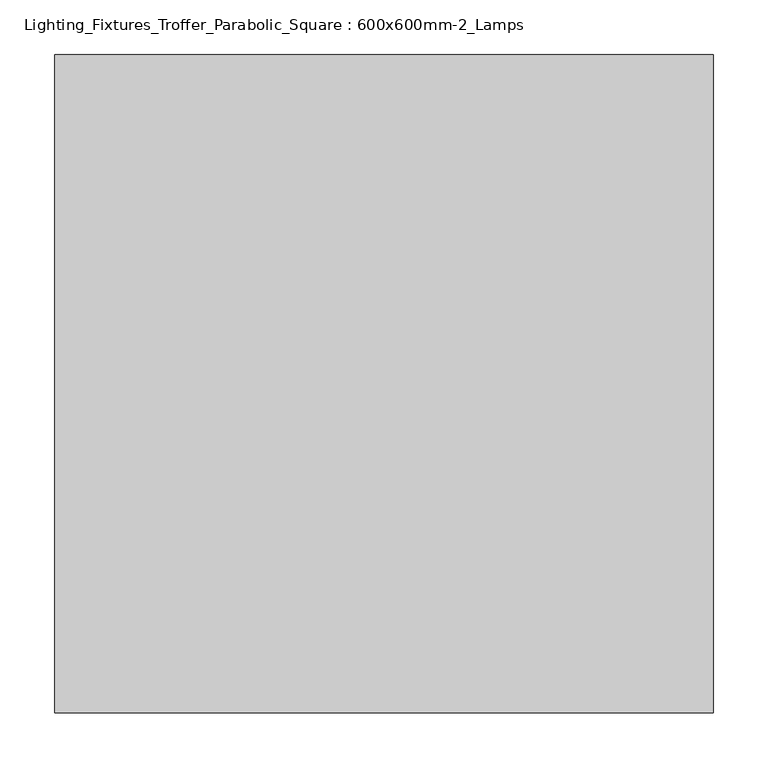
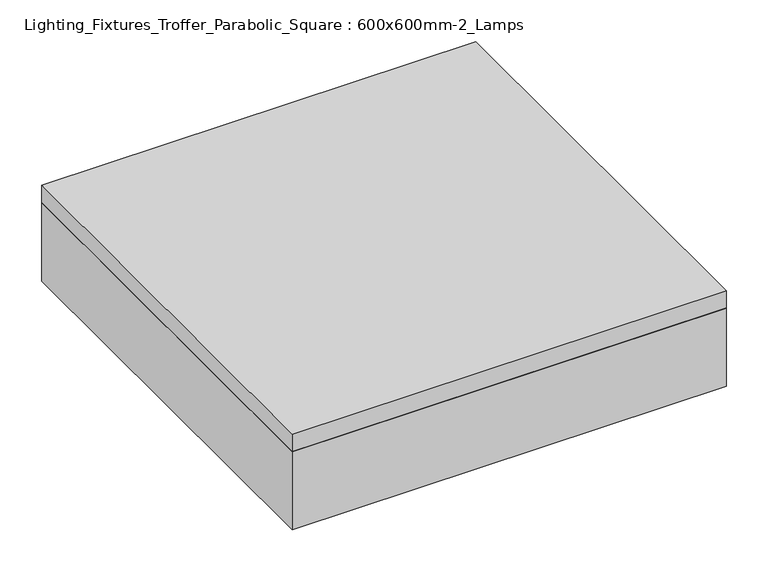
"""IFC4 building model written with IfcOpenShell, lengths in millimetres: light fixture geometry, Lighting_Fixtures_Troffer_Parabolic_Square : 600x600mm-2_Lamps."""

import ifcopenshell
import ifcopenshell.guid

model = None  # the IFC model being written
_history = None  # IfcOwnerHistory: only IFC2X3 demands one
_inside = {}  # id of a spatial element -> (the spatial element, [elements in it])
_under = {}  # id of a project, library or spatial element -> (it, [spatial elements below it])
_declared = {}  # id of a project -> (the project, [libraries it declares])
_typed = {}  # id of a type object -> (the type object, [elements of that type])
_made_of = {}  # id of a material, layer set ... -> (it, [elements and type objects made of it])


def new_model(schema):
    """Start an empty IFC model of exactly this schema.

    Asked for "IFC4X3", IfcOpenShell would pick the latest addendum, in which some entities
    have other attributes; the version numbers below select the first issue.
    IFC2X3 requires an IfcOwnerHistory on every rooted entity: one is made here for all.
    """
    global model, _history
    if schema == "IFC4X3":
        model = ifcopenshell.file(schema_version=(4, 3, 0, 0))
    else:
        model = ifcopenshell.file(schema=schema)
    _inside.clear()
    _under.clear()
    _declared.clear()
    _typed.clear()
    _made_of.clear()
    _history = None
    if model.schema == "IFC2X3":
        org = make("IfcOrganization", Name="unknown")
        user = make(
            "IfcPersonAndOrganization",
            ThePerson=make("IfcPerson", FamilyName="unknown"),
            TheOrganization=org,
        )
        app = make(
            "IfcApplication",
            ApplicationDeveloper=org,
            Version="unknown",
            ApplicationFullName="unknown",
            ApplicationIdentifier="unknown",
        )
        _history = make(
            "IfcOwnerHistory",
            OwningUser=user,
            OwningApplication=app,
            ChangeAction="ADDED",
            CreationDate=0,
        )
    return model


def make(cls, **values):
    """One entity of the class cls with the attributes given. An attribute that is None is left unset."""
    return model.create_entity(
        cls, **{name: value for name, value in values.items() if value is not None}
    )


def rooted(cls, **values):
    """An entity with a GlobalId (a new one), such as an element, a storey or a relation."""
    return make(cls, GlobalId=ifcopenshell.guid.new(), OwnerHistory=_history, **values)


def si_unit(unit_type, name, prefix=None):
    """IfcSIUnit, for example si_unit("LENGTHUNIT", "METRE", prefix="MILLI")."""
    return make("IfcSIUnit", UnitType=unit_type, Prefix=prefix, Name=name)


def assignment(units):
    """IfcUnitAssignment: the units of a project."""
    return None if units is None else make("IfcUnitAssignment", Units=units)


def point(xyz):
    """IfcCartesianPoint."""
    return None if xyz is None else make("IfcCartesianPoint", Coordinates=xyz)


def direction(xyz):
    """IfcDirection."""
    return None if xyz is None else make("IfcDirection", DirectionRatios=xyz)


def frame(location, z_axis=None, x_axis=None):
    """IfcAxis2Placement3D, a coordinate frame: its origin and axes. An axis left out is left unset."""
    return make(
        "IfcAxis2Placement3D",
        Location=point(location),
        Axis=direction(z_axis),
        RefDirection=direction(x_axis),
    )


def origin():
    """The frame at (0, 0, 0) with its axes left unset."""
    return frame((0.0, 0.0, 0.0))


def place(relative_to, where):
    """IfcLocalPlacement: puts the frame where relative to a parent placement (None: the world)."""
    return make(
        "IfcLocalPlacement", PlacementRelTo=relative_to, RelativePlacement=where
    )


def context(
    kind, dimensions, precision=None, world=None, true_north=None, identifier=None
):
    """IfcGeometricRepresentationContext, for example the 3D "Model" context."""
    return make(
        "IfcGeometricRepresentationContext",
        ContextIdentifier=identifier,
        ContextType=kind,
        CoordinateSpaceDimension=dimensions,
        Precision=precision,
        WorldCoordinateSystem=world,
        TrueNorth=true_north,
    )


def project(units=None, contexts=None):
    """IfcProject with its units and contexts."""
    return rooted(
        "IfcProject",
        Name="project",
        RepresentationContexts=contexts,
        UnitsInContext=assignment(units),
    )


def spatial(cls, under=None, at=None, **own):
    """A site, building, storey or space (cls), placed at a placement, below another one or the project."""
    s = rooted(cls, ObjectPlacement=at, **own)
    if under is not None:
        _under.setdefault(under.id(), (under, []))[1].append(s)
    return s


def polyline(points):
    """IfcPolyline through the points."""
    return make("IfcPolyline", Points=[point(p) for p in points])


def outline(outer, holes=None, kind="AREA"):
    """IfcArbitraryClosedProfileDef: a profile drawn as a closed curve; with holes, ...WithVoids."""
    if holes is None:
        return make("IfcArbitraryClosedProfileDef", ProfileType=kind, OuterCurve=outer)
    return make(
        "IfcArbitraryProfileDefWithVoids",
        ProfileType=kind,
        OuterCurve=outer,
        InnerCurves=holes,
    )


def extrude(swept, where, along, depth):
    """IfcExtrudedAreaSolid: the profile swept, set in the frame where, extruded along a direction by depth."""
    return make(
        "IfcExtrudedAreaSolid",
        SweptArea=swept,
        Position=where,
        ExtrudedDirection=direction(along),
        Depth=depth,
    )


def shape(context_of_items, identifier, shape_type, items):
    """IfcShapeRepresentation: the items that make up one representation, for example the "Body"."""
    return make(
        "IfcShapeRepresentation",
        ContextOfItems=context_of_items,
        RepresentationIdentifier=identifier,
        RepresentationType=shape_type,
        Items=items,
    )


def source(mapping_origin, context_of_items, identifier, shape_type, items):
    """IfcRepresentationMap: a shape defined once, which mapped items show again and again."""
    return make(
        "IfcRepresentationMap",
        MappingOrigin=mapping_origin,
        MappedRepresentation=shape(context_of_items, identifier, shape_type, items),
    )


def transform(
    local_origin,
    x_axis=None,
    y_axis=None,
    z_axis=None,
    scale=None,
    scale2=None,
    scale3=None,
    uniform=True,
):
    """IfcCartesianTransformationOperator3D, or its non-uniform kind. x_axis, y_axis, z_axis: its Axis1, 2, 3."""
    if uniform:
        return make(
            "IfcCartesianTransformationOperator3D",
            Axis1=direction(x_axis),
            Axis2=direction(y_axis),
            LocalOrigin=point(local_origin),
            Scale=scale,
            Axis3=direction(z_axis),
        )
    return make(
        "IfcCartesianTransformationOperator3DnonUniform",
        Axis1=direction(x_axis),
        Axis2=direction(y_axis),
        LocalOrigin=point(local_origin),
        Scale=scale,
        Axis3=direction(z_axis),
        Scale2=scale2,
        Scale3=scale3,
    )


def mapped(mapping_source, mapping_target):
    """IfcMappedItem: shows the shape of a source again, moved by a transform."""
    return make(
        "IfcMappedItem", MappingSource=mapping_source, MappingTarget=mapping_target
    )


def made_of(thing, what):
    """Note that an element or type object is made of a material, layer set ...; save() writes the relation."""
    if what is not None:
        _made_of.setdefault(what.id(), (what, []))[1].append(thing)
    return thing


def element(
    cls,
    number,
    at=None,
    inside=None,
    cuts=None,
    type_object=None,
    material=None,
    context=None,
    identifier="Body",
    shape_type=None,
    held_by="IfcProductDefinitionShape",
    body=None,
    shapes=None,
    **own,
):
    """One element of the class cls, such as IfcWall. Its Tag is "e" and its number.

    at: its placement. inside: the storey or other place that contains it. cuts: it is an
    opening in that element (IfcRelVoidsElement). A single representation is given by context,
    identifier, shape_type and body (its items); several are given by shapes. held_by: the class
    of the entity that holds the representations. save() writes the other relations.
    """
    e = rooted(cls, Tag="e%d" % number, ObjectPlacement=at, **own)
    if body is not None:
        shapes = [shape(context, identifier, shape_type, body)]
    if shapes is not None:
        e.Representation = make(held_by, Representations=shapes)
    if inside is not None:
        _inside.setdefault(inside.id(), (inside, []))[1].append(e)
    if cuts is not None:
        rooted(
            "IfcRelVoidsElement", RelatingBuildingElement=cuts, RelatedOpeningElement=e
        )
    if type_object is not None:
        _typed.setdefault(type_object.id(), (type_object, []))[1].append(e)
    return made_of(e, material)


def aggregate(whole, parts):
    """IfcRelAggregates: a whole, such as a stair, and the parts it consists of."""
    return rooted("IfcRelAggregates", RelatingObject=whole, RelatedObjects=parts)


def save(model, path):
    """Write the relations noted so far, then the file.

    IfcRelAggregates (storeys below a building ...), IfcRelContainedInSpatialStructure (elements
    in a storey), IfcRelDefinesByType, IfcRelAssociatesMaterial and IfcRelDeclares: one each for
    every whole, place, type object, material and project.
    """
    for whole, parts in _under.values():
        aggregate(whole, parts)
    for where, things in _inside.values():
        rooted(
            "IfcRelContainedInSpatialStructure",
            RelatedElements=things,
            RelatingStructure=where,
        )
    for kind, things in _typed.values():
        rooted("IfcRelDefinesByType", RelatedObjects=things, RelatingType=kind)
    for what, things in _made_of.values():
        rooted("IfcRelAssociatesMaterial", RelatedObjects=things, RelatingMaterial=what)
    for by, libraries in _declared.values():
        rooted("IfcRelDeclares", RelatingContext=by, RelatedDefinitions=libraries)
    model.write(path)


def lighting_fixtures_troffer_parabolic_square_600x600mm_2_lamps_e1dca80e(model_context):
    return source(origin(), model_context, "Body", "SweptSolid", [
        extrude(outline(polyline([(260.6964984, 219.9340679), (260.6964984, -338.8659321), (-298.1035016, -338.8659321), (-298.1035016, 219.9340679), (260.6964984, 219.9340679)]), holes=[polyline([(-113.9535016, 35.7840679), (-113.9535016, 213.5840679), (-291.7535016, 213.5840679), (-291.7535016, 35.7840679), (-113.9535016, 35.7840679)]), polyline([(-113.9535016, -148.3659321), (-113.9535016, 29.4340679), (-291.7535016, 29.4340679), (-291.7535016, -148.3659321), (-113.9535016, -148.3659321)]), polyline([(-113.9535016, -154.7159321), (-291.7535016, -154.7159321), (-291.7535016, -332.5159321), (-113.9535016, -332.5159321), (-113.9535016, -154.7159321)]), polyline([(70.1964984, 35.7840679), (70.1964984, 213.5840679), (-107.6035016, 213.5840679), (-107.6035016, 35.7840679), (70.1964984, 35.7840679)]), polyline([(70.1964984, -148.3659321), (70.1964984, 29.4340679), (-107.6035016, 29.4340679), (-107.6035016, -148.3659321), (70.1964984, -148.3659321)]), polyline([(70.1964984, -154.7159321), (-107.6035016, -154.7159321), (-107.6035016, -332.5159321), (70.1964984, -332.5159321), (70.1964984, -154.7159321)]), polyline([(254.3464984, 35.7840679), (254.3464984, 213.5840679), (76.5464984, 213.5840679), (76.5464984, 35.7840679), (254.3464984, 35.7840679)]), polyline([(254.3464984, -148.3659321), (254.3464984, 29.4340679), (76.5464984, 29.4340679), (76.5464984, -148.3659321), (254.3464984, -148.3659321)]), polyline([(254.3464984, -154.7159321), (76.5464984, -154.7159321), (76.5464984, -332.5159321), (254.3464984, -332.5159321), (254.3464984, -154.7159321)])]), frame((0.0, 0.0, 2438.4), z_axis=(0.0, 0.0, 1.0), x_axis=(1.0, 0.0, 0.0)), (0.0, 0.0, 1.0), 3.175),
        extrude(outline(polyline([(251.0964984, 219.9340679), (251.0964984, -329.2659321), (-298.1035016, -329.2659321), (-298.1035016, 219.9340679), (251.0964984, 219.9340679)])), frame((0.0, 0.0, 2514.6), z_axis=(0.0, 0.0, 1.0), x_axis=(1.0, 0.0, 0.0)), (0.0, 0.0, 1.0), 6.35),
        extrude(outline(polyline([(260.6964984, 219.9340679), (260.6964984, -338.8659321), (-298.1035016, -338.8659321), (-298.1035016, 219.9340679), (260.6964984, 219.9340679)]), holes=[polyline([(-113.9535016, 35.7840679), (-113.9535016, 213.5840679), (-291.7535016, 213.5840679), (-291.7535016, 35.7840679), (-113.9535016, 35.7840679)]), polyline([(-113.9535016, -148.3659321), (-113.9535016, 29.4340679), (-291.7535016, 29.4340679), (-291.7535016, -148.3659321), (-113.9535016, -148.3659321)]), polyline([(-113.9535016, -154.7159321), (-291.7535016, -154.7159321), (-291.7535016, -332.5159321), (-113.9535016, -332.5159321), (-113.9535016, -154.7159321)]), polyline([(70.1964984, 35.7840679), (70.1964984, 213.5840679), (-107.6035016, 213.5840679), (-107.6035016, 35.7840679), (70.1964984, 35.7840679)]), polyline([(70.1964984, -148.3659321), (70.1964984, 29.4340679), (-107.6035016, 29.4340679), (-107.6035016, -148.3659321), (70.1964984, -148.3659321)]), polyline([(70.1964984, -154.7159321), (-107.6035016, -154.7159321), (-107.6035016, -332.5159321), (70.1964984, -332.5159321), (70.1964984, -154.7159321)]), polyline([(254.3464984, 35.7840679), (254.3464984, 213.5840679), (76.5464984, 213.5840679), (76.5464984, 35.7840679), (254.3464984, 35.7840679)]), polyline([(254.3464984, -148.3659321), (254.3464984, 29.4340679), (76.5464984, 29.4340679), (76.5464984, -148.3659321), (254.3464984, -148.3659321)]), polyline([(254.3464984, -154.7159321), (76.5464984, -154.7159321), (76.5464984, -332.5159321), (254.3464984, -332.5159321), (254.3464984, -154.7159321)])]), frame((0.0, 0.0, 2441.575), z_axis=(0.0, 0.0, 1.0), x_axis=(1.0, 0.0, 0.0)), (0.0, 0.0, 1.0), 47.625),
        extrude(outline(polyline([(276.4964984, 245.3340679), (276.4964984, -354.6659321), (-323.5035016, -354.6659321), (-323.5035016, 245.3340679), (276.4964984, 245.3340679)]), holes=[polyline([(251.0964984, 219.9340679), (-298.1035016, 219.9340679), (-298.1035016, -329.2659321), (251.0964984, -329.2659321), (251.0964984, 219.9340679)])]), frame((0.0, 0.0, 2438.4), z_axis=(0.0, 0.0, 1.0), x_axis=(1.0, 0.0, 0.0)), (0.0, 0.0, 1.0), 114.3),
        extrude(outline(polyline([(276.4964984, 245.3340679), (276.4964984, -354.6659321), (-323.5035016, -354.6659321), (-323.5035016, 245.3340679), (276.4964984, 245.3340679)])), frame((0.0, 0.0, 2552.7), z_axis=(0.0, 0.0, 1.0), x_axis=(1.0, 0.0, 0.0)), (0.0, 0.0, 1.0), 25.4),
    ])


if __name__ == "__main__":
    model = new_model("IFC4")
    model_context = context("Model", 3, world=origin())
    ifc_project = project(units=[si_unit("LENGTHUNIT", "METRE", prefix="MILLI")], contexts=[model_context])
    site = spatial("IfcSite", under=ifc_project)
    building = spatial("IfcBuilding", under=site)
    placement = place(None, origin())
    lighting_fixtures_troffer_parabolic_square_600x600mm_2_lamps_shape = lighting_fixtures_troffer_parabolic_square_600x600mm_2_lamps_e1dca80e(model_context)
    element("IfcLightFixture", 1, ObjectType="Lighting_Fixtures_Troffer_Parabolic_Square : 600x600mm-2_Lamps", at=placement, inside=building, context=model_context, shape_type="MappedRepresentation", body=[
        mapped(lighting_fixtures_troffer_parabolic_square_600x600mm_2_lamps_shape, transform((0.0, 0.0, 0.0), x_axis=(1.0, 0.0, 0.0), y_axis=(0.0, 1.0, 0.0), z_axis=(0.0, 0.0, 1.0))),
    ])
    save(model, "model.ifc")
